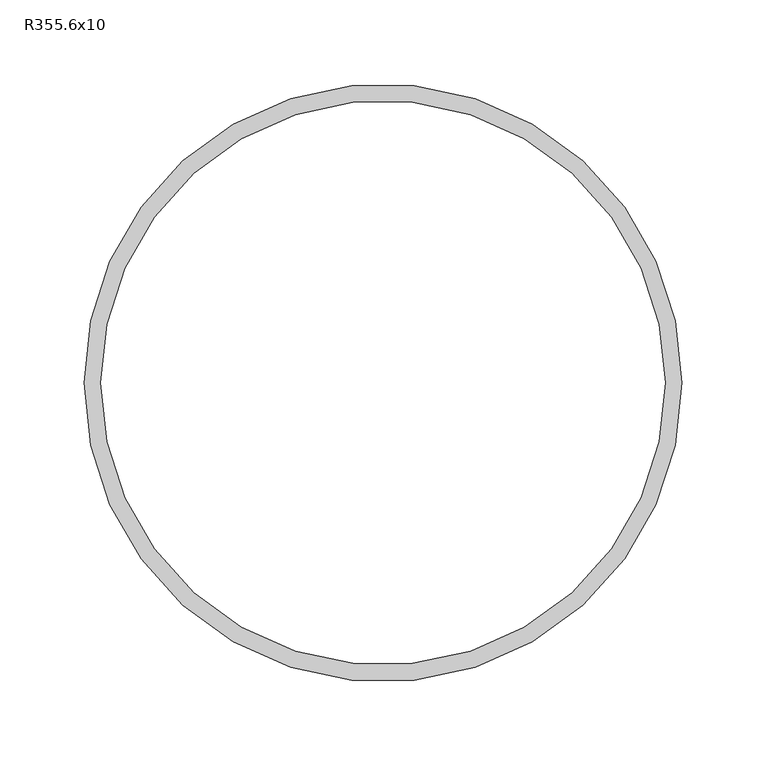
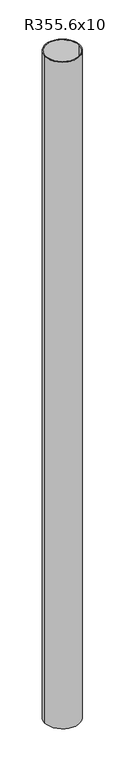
"""IFC4 building model written with IfcOpenShell, lengths in millimetres: column geometry, RPLN RO - Rury okragle_Column : R355.6x10."""

from ifc_helpers import new_model, si_unit, point, origin, origin_with_axes, origin_2d, place, context, project, spatial, circle_curve, trimmed, segment, composite_curve, outline, extrude, source, transform, mapped, element, save


def r355_6x10_06c2b0f0(model_context):
    return source(origin(), model_context, "Body", "SweptSolid", [
        extrude(outline(composite_curve([segment(trimmed(circle_curve(origin_2d(), 177.8), [point((-177.8, 0.0))], [point((177.8, 0.0))], False, "CARTESIAN"), True, "CONTINUOUS"), segment(trimmed(circle_curve(origin_2d(), 177.8), [point((177.8, 0.0))], [point((-177.8, 0.0))], False, "CARTESIAN"), True, "CONTINUOUS")], self_intersect=False), holes=[composite_curve([segment(trimmed(circle_curve(origin_2d(), 167.8), [point((-167.8, 0.0))], [point((167.8, 0.0))], True, "CARTESIAN"), True, "CONTINUOUS"), segment(trimmed(circle_curve(origin_2d(), 167.8), [point((167.8, 0.0))], [point((-167.8, 0.0))], True, "CARTESIAN"), True, "CONTINUOUS")], self_intersect=False)]), origin_with_axes(), (0.0, 0.0, 1.0), 7194.2),
    ])


if __name__ == "__main__":
    model = new_model("IFC4")
    model_context = context("Model", 3, world=origin())
    ifc_project = project(units=[si_unit("LENGTHUNIT", "METRE", prefix="MILLI")], contexts=[model_context])
    site = spatial("IfcSite", under=ifc_project)
    building = spatial("IfcBuilding", under=site)
    placement = place(None, origin())
    r355_6x10_shape = r355_6x10_06c2b0f0(model_context)
    element("IfcColumn", 1, ObjectType="RPLN RO - Rury okragle_Column : R355.6x10", at=placement, inside=building, context=model_context, shape_type="MappedRepresentation", body=[
        mapped(r355_6x10_shape, transform((0.0, 0.0, 0.0), x_axis=(1.0, 0.0, 0.0), y_axis=(0.0, 1.0, 0.0), z_axis=(0.0, 0.0, 1.0))),
    ])
    save(model, "model.ifc")
